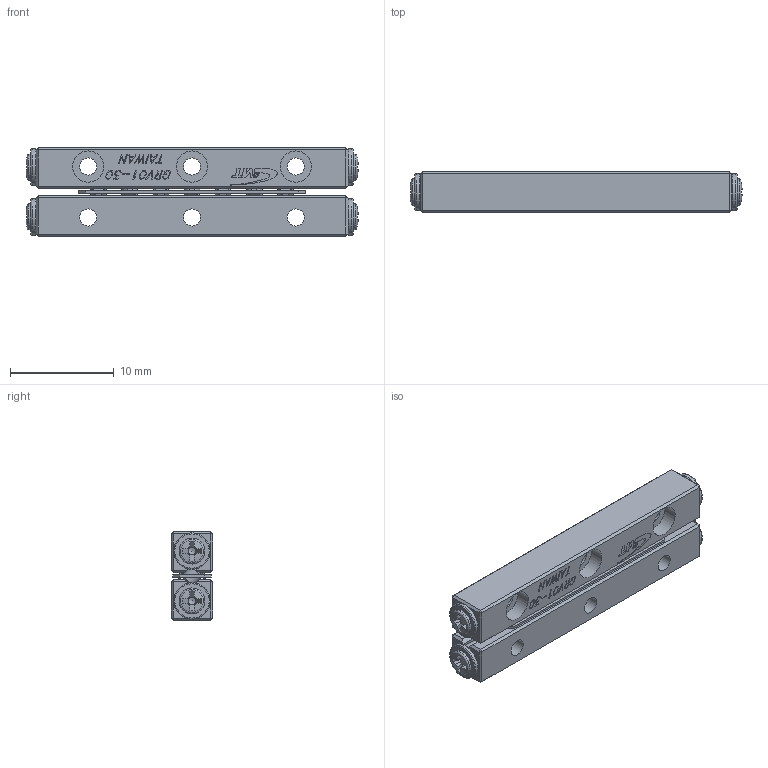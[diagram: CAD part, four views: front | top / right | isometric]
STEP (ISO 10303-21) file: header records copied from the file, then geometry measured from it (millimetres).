
FILE_DESCRIPTION (( 'STEP AP203' ), '1' );
FILE_NAME ('GRV01-30.STEP', '2023-07-31T06:06:58', ( '' ), ( '' ), 'SwSTEP 2.0', 'SolidWorks 2019', '' );
FILE_SCHEMA (( 'CONFIG_CONTROL_DESIGN' ));
Length unit declared in the file: millimetre
Products named in the file (3): GRV01-30-模糊化保持器組; GRV01-30-模糊化軌道; GRV01-30
Assembly tree (3 placements, depth 2):
  GRV01-30
    GRV01-30-模糊化軌道  x2
    GRV01-30-模糊化保持器組
Bounding box: 31.96 x 4 x 8.5 mm (x, y, z)
Volume: 835.1 mm3; surface area: 1490.1 mm2
Topology: 3 solids, 7 shells, 1264 faces, 3377 edges, 2206 vertices
Faces by surface type: plane 860, bspline 240, cylinder 94, cone 40, torus 26, sphere 4
Full cylindrical faces by diameter (mm): 1.32 x4, 1.65 x6, 2.5 x4, 3 x6, 3.5 x4
Entity records: 24574 total; most frequent: CARTESIAN_POINT 7324, ORIENTED_EDGE 3814, DIRECTION 2921, EDGE_CURVE 1907, LINE 1307, VECTOR 1307, VERTEX_POINT 1260, EDGE_LOOP 823
